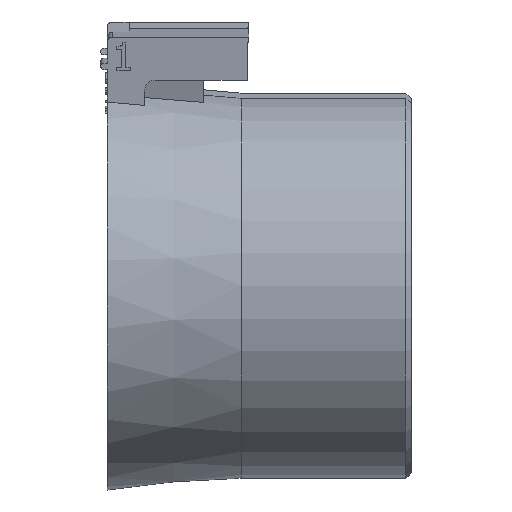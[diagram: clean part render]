
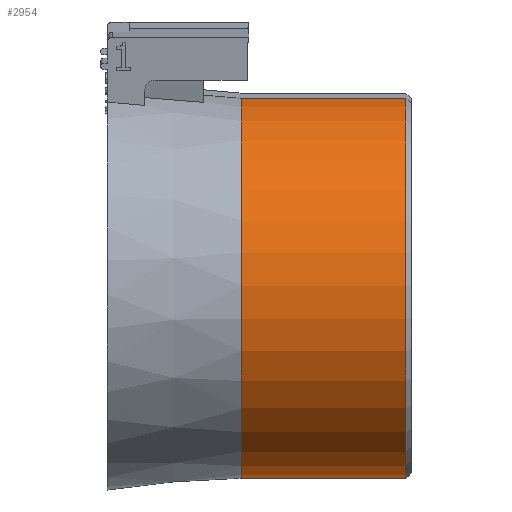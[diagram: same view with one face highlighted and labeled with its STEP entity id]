
A CAD part, front view. The second image highlights one B-rep face of the part: STEP entity #2954.
In plain terms, the highlighted cylindrical face has radius 17.5 mm (diameter 35 mm), a partial arc.
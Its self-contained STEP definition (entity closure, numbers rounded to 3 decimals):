
#49=CYLINDRICAL_SURFACE('',#3127,17.5);
#85=CIRCLE('',#3128,17.5);
#86=CIRCLE('',#3129,17.5);
#381=FACE_OUTER_BOUND('',#552,.T.);
#552=EDGE_LOOP('',(#2564,#2565,#2566,#2567));
#814=LINE('',#5015,#1097);
#832=LINE('',#5055,#1115);
#1097=VECTOR('',#3629,10.);
#1115=VECTOR('',#3657,10.);
#1467=VERTEX_POINT('',#5012);
#1468=VERTEX_POINT('',#5014);
#1484=VERTEX_POINT('',#5053);
#1485=VERTEX_POINT('',#5054);
#1848=EDGE_CURVE('',#1468,#1467,#814,.T.);
#1868=EDGE_CURVE('',#1484,#1485,#832,.T.);
#1869=EDGE_CURVE('',#1468,#1484,#85,.T.);
#1870=EDGE_CURVE('',#1485,#1467,#86,.T.);
#2564=ORIENTED_EDGE('',*,*,#1868,.F.);
#2565=ORIENTED_EDGE('',*,*,#1869,.F.);
#2566=ORIENTED_EDGE('',*,*,#1848,.T.);
#2567=ORIENTED_EDGE('',*,*,#1870,.F.);
#2954=ADVANCED_FACE('',(#381),#49,.T.);
#3127=AXIS2_PLACEMENT_3D('',#5052,#3655,#3656);
#3128=AXIS2_PLACEMENT_3D('',#5056,#3658,#3659);
#3129=AXIS2_PLACEMENT_3D('',#5057,#3660,#3661);
#3629=DIRECTION('',(-1.,0.,0.));
#3655=DIRECTION('center_axis',(-1.,0.,0.));
#3656=DIRECTION('ref_axis',(0.,-0.985,-0.174));
#3657=DIRECTION('',(-1.,0.,0.));
#3658=DIRECTION('center_axis',(1.,0.,0.));
#3659=DIRECTION('ref_axis',(0.,0.985,0.174));
#3660=DIRECTION('center_axis',(-1.,0.,0.));
#3661=DIRECTION('ref_axis',(0.,-0.985,-0.174));
#5012=CARTESIAN_POINT('',(11.43,-5.539,17.015));
#5014=CARTESIAN_POINT('',(26.5,-5.539,17.015));
#5015=CARTESIAN_POINT('',(19.215,-5.539,17.015));
#5052=CARTESIAN_POINT('Origin',(19.215,-2.501,-0.219));
#5053=CARTESIAN_POINT('',(26.5,0.271,-17.498));
#5054=CARTESIAN_POINT('',(11.43,0.271,-17.498));
#5055=CARTESIAN_POINT('',(19.215,0.271,-17.498));
#5056=CARTESIAN_POINT('Origin',(26.5,-2.501,-0.219));
#5057=CARTESIAN_POINT('Origin',(11.43,-2.501,-0.219));
